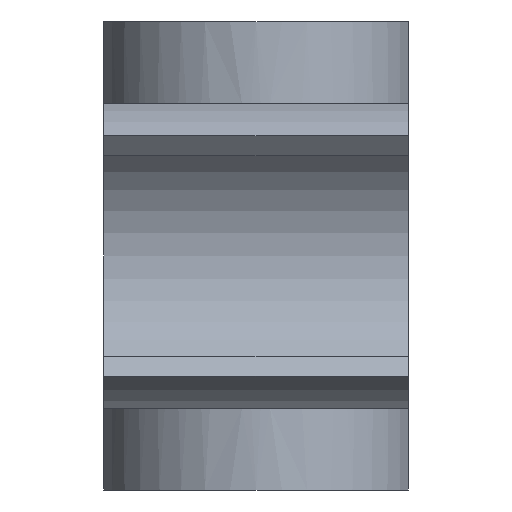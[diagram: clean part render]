
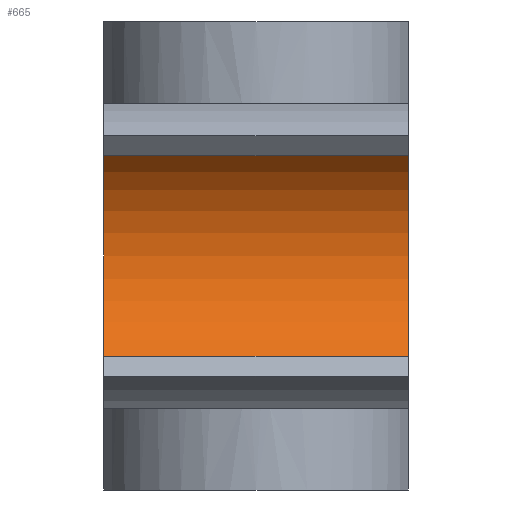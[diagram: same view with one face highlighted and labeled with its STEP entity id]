
A CAD part, front view. The second image highlights one B-rep face of the part: STEP entity #665.
In plain terms, the highlighted cylindrical face has radius 14 mm (diameter 28 mm), a partial arc.
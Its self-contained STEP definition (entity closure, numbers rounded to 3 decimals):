
#4 = DIRECTION ( 'NONE',  ( 1., 0., 0. ) ) ;
#39 = DIRECTION ( 'NONE',  ( 1., 0., 0. ) ) ;
#40 = CIRCLE ( 'NONE', #1129, 14. ) ;
#54 = DIRECTION ( 'NONE',  ( 0., 0., -1. ) ) ;
#88 = CARTESIAN_POINT ( 'NONE',  ( -16.25, -34., 0. ) ) ;
#100 = DIRECTION ( 'NONE',  ( 1., 0., 0. ) ) ;
#124 = LINE ( 'NONE', #847, #151 ) ;
#151 = VECTOR ( 'NONE', #39, 1000. ) ;
#268 = FACE_OUTER_BOUND ( 'NONE', #649, .T. ) ;
#281 = VERTEX_POINT ( 'NONE', #996 ) ;
#295 = VERTEX_POINT ( 'NONE', #699 ) ;
#323 = DIRECTION ( 'NONE',  ( 1., 0., 0. ) ) ;
#338 = AXIS2_PLACEMENT_3D ( 'NONE', #88, #4, #808 ) ;
#361 = CARTESIAN_POINT ( 'NONE',  ( 16.25, -34., 14. ) ) ;
#387 = EDGE_CURVE ( 'NONE', #281, #701, #40, .T. ) ;
#398 = CARTESIAN_POINT ( 'NONE',  ( -16.25, -34., -14. ) ) ;
#429 = EDGE_CURVE ( 'NONE', #711, #281, #124, .T. ) ;
#487 = CARTESIAN_POINT ( 'NONE',  ( 16.25, -34., 0. ) ) ;
#509 = ORIENTED_EDGE ( 'NONE', *, *, #429, .T. ) ;
#511 = VECTOR ( 'NONE', #323, 1000. ) ;
#544 = CIRCLE ( 'NONE', #713, 14. ) ;
#623 = EDGE_CURVE ( 'NONE', #711, #295, #544, .T. ) ;
#627 = DIRECTION ( 'NONE',  ( 0., 0., -1. ) ) ;
#640 = ORIENTED_EDGE ( 'NONE', *, *, #896, .F. ) ;
#649 = EDGE_LOOP ( 'NONE', ( #640, #877, #509, #1080 ) ) ;
#665 = ADVANCED_FACE ( 'NONE', ( #268 ), #900, .F. ) ;
#686 = LINE ( 'NONE', #1146, #511 ) ;
#699 = CARTESIAN_POINT ( 'NONE',  ( -16.25, -34., 14. ) ) ;
#701 = VERTEX_POINT ( 'NONE', #361 ) ;
#711 = VERTEX_POINT ( 'NONE', #398 ) ;
#713 = AXIS2_PLACEMENT_3D ( 'NONE', #1007, #100, #627 ) ;
#754 = DIRECTION ( 'NONE',  ( 1., 0., 0. ) ) ;
#808 = DIRECTION ( 'NONE',  ( 0., 0., -1. ) ) ;
#847 = CARTESIAN_POINT ( 'NONE',  ( -16.25, -34., -14. ) ) ;
#877 = ORIENTED_EDGE ( 'NONE', *, *, #623, .F. ) ;
#896 = EDGE_CURVE ( 'NONE', #295, #701, #686, .T. ) ;
#900 = CYLINDRICAL_SURFACE ( 'NONE', #338, 14. ) ;
#996 = CARTESIAN_POINT ( 'NONE',  ( 16.25, -34., -14. ) ) ;
#1007 = CARTESIAN_POINT ( 'NONE',  ( -16.25, -34., 0. ) ) ;
#1080 = ORIENTED_EDGE ( 'NONE', *, *, #387, .T. ) ;
#1129 = AXIS2_PLACEMENT_3D ( 'NONE', #487, #754, #54 ) ;
#1146 = CARTESIAN_POINT ( 'NONE',  ( -16.25, -34., 14. ) ) ;
